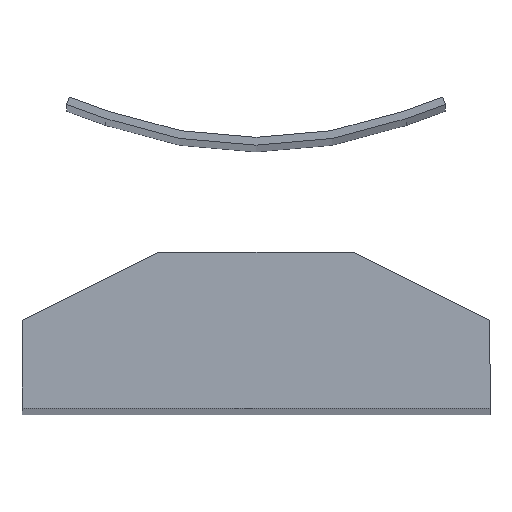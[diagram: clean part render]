
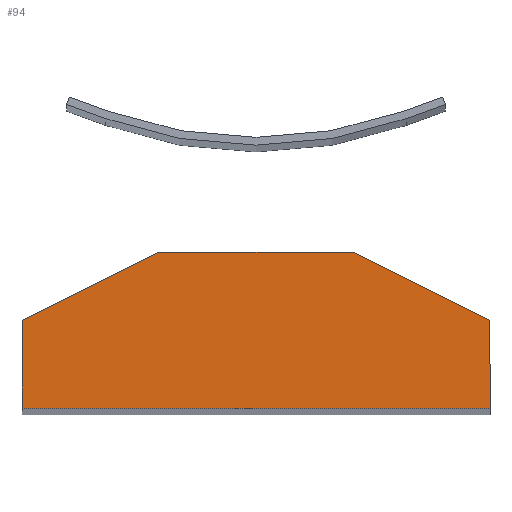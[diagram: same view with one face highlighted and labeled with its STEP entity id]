
A CAD part, top view. The second image highlights one B-rep face of the part: STEP entity #94.
In plain terms, the highlighted planar face has unit normal (0, 0, 1).
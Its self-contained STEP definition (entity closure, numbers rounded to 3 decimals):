
#72 = CARTESIAN_POINT ( 'NONE',  ( -240., 90., 2000. ) ) ;
#83 = DIRECTION ( 'NONE',  ( 0., -1., 0. ) ) ;
#84 = CARTESIAN_POINT ( 'NONE',  ( -240., 0., 2000. ) ) ;
#94 = ADVANCED_FACE ( 'NONE', ( #267 ), #572, .F. ) ;
#100 = CARTESIAN_POINT ( 'NONE',  ( -240., 90., 2000. ) ) ;
#116 = DIRECTION ( 'NONE',  ( -1., 0., 0. ) ) ;
#139 = DIRECTION ( 'NONE',  ( -0.894, 0.447, 0. ) ) ;
#143 = DIRECTION ( 'NONE',  ( 0., 1., 0. ) ) ;
#148 = VECTOR ( 'NONE', #83, 1000. ) ;
#154 = LINE ( 'NONE', #84, #148 ) ;
#156 = CARTESIAN_POINT ( 'NONE',  ( -100., 160., 2000. ) ) ;
#161 = DIRECTION ( 'NONE',  ( -0.894, -0.447, 0. ) ) ;
#213 = VECTOR ( 'NONE', #269, 1000. ) ;
#215 = VECTOR ( 'NONE', #161, 1000. ) ;
#216 = LINE ( 'NONE', #156, #213 ) ;
#219 = LINE ( 'NONE', #100, #215 ) ;
#228 = VECTOR ( 'NONE', #139, 1000. ) ;
#232 = LINE ( 'NONE', #475, #228 ) ;
#233 = CARTESIAN_POINT ( 'NONE',  ( 240., 90., 2000. ) ) ;
#239 = VECTOR ( 'NONE', #143, 1000. ) ;
#242 = DIRECTION ( 'NONE',  ( 1., 0., 0. ) ) ;
#246 = LINE ( 'NONE', #233, #239 ) ;
#250 = VECTOR ( 'NONE', #242, 1000. ) ;
#258 = LINE ( 'NONE', #364, #250 ) ;
#267 = FACE_OUTER_BOUND ( 'NONE', #288, .T. ) ;
#269 = DIRECTION ( 'NONE',  ( -1., 0., 0. ) ) ;
#288 = EDGE_LOOP ( 'NONE', ( #339, #340, #341, #342, #346, #347 ) ) ;
#311 = CARTESIAN_POINT ( 'NONE',  ( 240., 0., 2000. ) ) ;
#339 = ORIENTED_EDGE ( 'NONE', *, *, #583, .T. ) ;
#340 = ORIENTED_EDGE ( 'NONE', *, *, #537, .T. ) ;
#341 = ORIENTED_EDGE ( 'NONE', *, *, #541, .T. ) ;
#342 = ORIENTED_EDGE ( 'NONE', *, *, #546, .T. ) ;
#346 = ORIENTED_EDGE ( 'NONE', *, *, #553, .T. ) ;
#347 = ORIENTED_EDGE ( 'NONE', *, *, #552, .T. ) ;
#364 = CARTESIAN_POINT ( 'NONE',  ( -240., 0., 2000. ) ) ;
#377 = CARTESIAN_POINT ( 'NONE',  ( 100., 160., 2000. ) ) ;
#381 = CARTESIAN_POINT ( 'NONE',  ( -100., 160., 2000. ) ) ;
#393 = VERTEX_POINT ( 'NONE', #72 ) ;
#412 = VERTEX_POINT ( 'NONE', #311 ) ;
#417 = VERTEX_POINT ( 'NONE', #467 ) ;
#435 = VERTEX_POINT ( 'NONE', #465 ) ;
#441 = VERTEX_POINT ( 'NONE', #381 ) ;
#445 = CARTESIAN_POINT ( 'NONE',  ( 0., 0., 2000. ) ) ;
#446 = VERTEX_POINT ( 'NONE', #377 ) ;
#465 = CARTESIAN_POINT ( 'NONE',  ( 240., 90., 2000. ) ) ;
#467 = CARTESIAN_POINT ( 'NONE',  ( -240., 0., 2000. ) ) ;
#475 = CARTESIAN_POINT ( 'NONE',  ( 100., 160., 2000. ) ) ;
#516 = AXIS2_PLACEMENT_3D ( 'NONE', #445, #581, #116 ) ;
#537 = EDGE_CURVE ( 'NONE', #417, #412, #258, .T. ) ;
#541 = EDGE_CURVE ( 'NONE', #412, #435, #246, .T. ) ;
#546 = EDGE_CURVE ( 'NONE', #435, #446, #232, .T. ) ;
#552 = EDGE_CURVE ( 'NONE', #441, #393, #219, .T. ) ;
#553 = EDGE_CURVE ( 'NONE', #446, #441, #216, .T. ) ;
#572 = PLANE ( 'NONE',  #516 ) ;
#581 = DIRECTION ( 'NONE',  ( 0., 0., -1. ) ) ;
#583 = EDGE_CURVE ( 'NONE', #393, #417, #154, .T. ) ;
